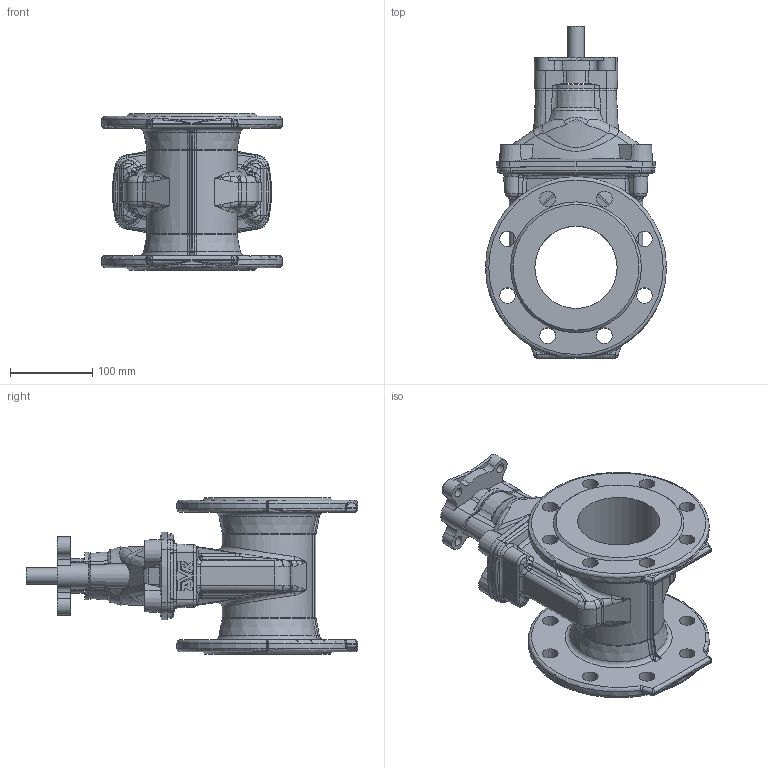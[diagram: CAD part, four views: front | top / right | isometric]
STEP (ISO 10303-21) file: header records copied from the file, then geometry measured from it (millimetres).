
FILE_DESCRIPTION (( 'STEP AP203' ), '1' );
FILE_NAME ('O_06_42_DN100_X1XXX_REV02.step', '2025-12-18T06:54:52', ( '' ), ( '' ), 'SwSTEP 2.0', 'SolidWorks 2022', '' );
FILE_SCHEMA (( 'CONFIG_CONTROL_DESIGN' ));
Length unit declared in the file: millimetre
Products named in the file (1): O_06_42_DN100_X1XXX_REV02
Bounding box: 219.98 x 403.5 x 190 mm (x, y, z)
Volume: 3152808.6 mm3; surface area: 369147.8 mm2
Topology: 1 solids, 1 shells, 654 faces, 1639 edges, 959 vertices
Faces by surface type: bspline 268, cylinder 154, plane 134, cone 58, torus 34, sphere 6
Full cylindrical faces by diameter (mm): 12 x4, 19 x16, 20 x1, 72 x1, 100 x1
Entity records: 26268 total; most frequent: CARTESIAN_POINT 13110, ORIENTED_EDGE 3104, DIRECTION 2229, EDGE_CURVE 1552, VERTEX_POINT 939, AXIS2_PLACEMENT_3D 914, EDGE_LOOP 735, FACE_OUTER_BOUND 679
